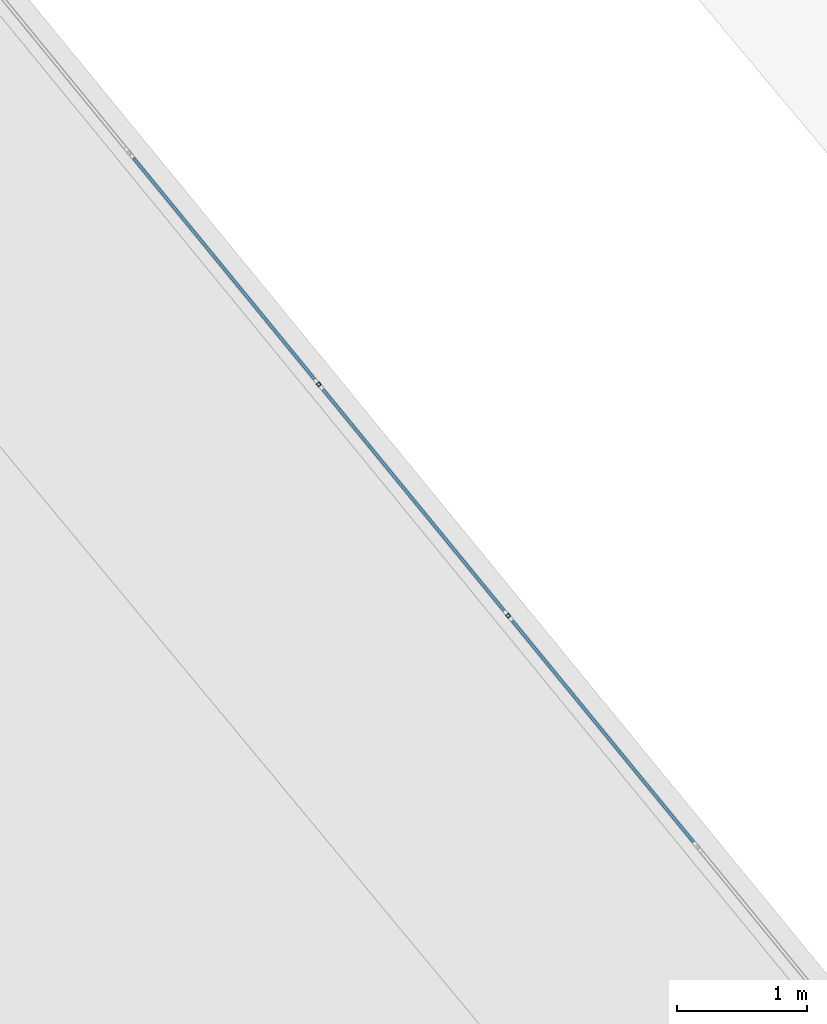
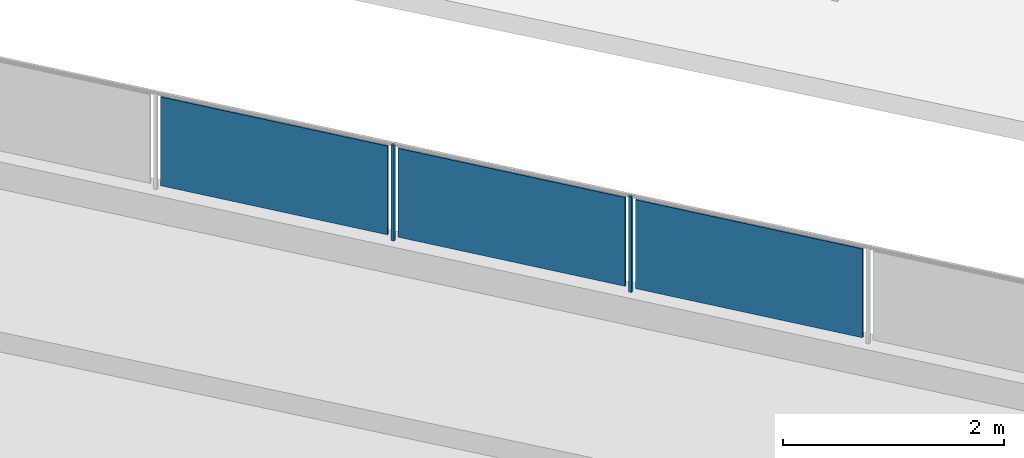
# One storey, part 17 of 75: 5 building element parts, 1 element without a shape of its own.
"""IFC4 building model written with IfcOpenShell, lengths in metres."""

from ifc_helpers import new_model, entity, si_unit, converted_unit, derived_unit, direction, frame, origin_with_axes, place, context, subcontext, project, spatial, polygons, material, type_object, element, aggregate, save


model = new_model("IFC4")

# Units and contexts
model_context = context("Model", 3, precision=1e-05, world=origin_with_axes(), true_north=direction((0.0, 1.0)))
body_context = subcontext(model_context, "Body", "Model", "MODEL_VIEW")
ifc_project = project(units=[si_unit("LENGTHUNIT", "METRE"), si_unit("AREAUNIT", "SQUARE_METRE"), si_unit("VOLUMEUNIT", "CUBIC_METRE"), converted_unit("PLANEANGLEUNIT", "DEGREE", entity("IfcPlaneAngleMeasure", 0.0174532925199), si_unit("PLANEANGLEUNIT", "RADIAN"), dimensions=[0, 0, 0, 0, 0, 0, 0]), converted_unit("TIMEUNIT", "Year", entity("IfcTimeMeasure", 31556926.0), si_unit("TIMEUNIT", "SECOND"), dimensions=[0, 0, 1, 0, 0, 0, 0]), si_unit("MASSUNIT", "GRAM", prefix="KILO"), si_unit("THERMODYNAMICTEMPERATUREUNIT", "DEGREE_CELSIUS"), si_unit("LUMINOUSINTENSITYUNIT", "LUMEN"), si_unit("ENERGYUNIT", "JOULE", prefix="MEGA"), derived_unit("THERMALCONDUCTANCEUNIT", [(si_unit("POWERUNIT", "WATT"), 1), (si_unit("LENGTHUNIT", "METRE"), -1), (si_unit("THERMODYNAMICTEMPERATUREUNIT", "KELVIN"), -1)]), derived_unit("SPECIFICHEATCAPACITYUNIT", [(si_unit("ENERGYUNIT", "JOULE"), 1), (si_unit("MASSUNIT", "GRAM", prefix="KILO"), -1), (si_unit("THERMODYNAMICTEMPERATUREUNIT", "KELVIN"), -1)]), derived_unit("MASSDENSITYUNIT", [(si_unit("MASSUNIT", "GRAM", prefix="KILO"), 1), (si_unit("VOLUMEUNIT", "CUBIC_METRE"), -1)])], contexts=[model_context])

# Site, building, storey
site_placement = place(None, frame((-0.00153261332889, -0.00661245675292, 0.0), z_axis=(0.0, 0.0, 1.0), x_axis=(1.0, 0.0, 0.0)))
site = spatial("IfcSite", under=ifc_project, at=site_placement, Name="Gelände", CompositionType="ELEMENT")
building_placement = place(site_placement, origin_with_axes())
building = spatial("IfcBuilding", under=site, at=building_placement, Name="Gebäude", CompositionType="ELEMENT")
storey_placement = place(building_placement, frame((0.0, 0.0, -0.22), z_axis=(0.0, 0.0, 1.0), x_axis=(1.0, 0.0, 0.0)))
storey = spatial("IfcBuildingStorey", under=building, at=storey_placement, Name="EG", CompositionType="ELEMENT", Elevation=-0.22)

# Railing, building element parts
railing_type = type_object("IfcRailingType", Name="Geländerart", PredefinedType="NOTDEFINED")
railing_placement = place(storey_placement, frame((-12.1608341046, 23.557810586, 0.523948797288), z_axis=(0.0, 0.0, 1.0), x_axis=(1.0, 0.0, 0.0)))
railing = element("IfcRailing", 1, at=railing_placement, inside=storey, type_object=railing_type, Name="Geländer - 001", PredefinedType="NOTDEFINED")
ifc_material_1 = material(Name="Zaun")
building_element_part_1_placement = place(railing_placement, origin_with_axes())
building_element_part_1 = element("IfcBuildingElementPart", 2, at=building_element_part_1_placement, material=ifc_material_1, Name="Zaun", PredefinedType="NOTDEFINED", context=body_context, shape_type="Tessellation", body=[
    polygons([(6.33475571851, -16.2595765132, 0.05), (4.94383989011, -14.5606796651, 0.05), (4.94383989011, -14.5606796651, 1.03), (6.33475571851, -16.2595765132, 1.03), (4.92836480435, -14.5733493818, 0.05), (6.31928063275, -16.2722462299, 0.05), (4.92836480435, -14.5733493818, 1.03), (6.31928063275, -16.2722462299, 1.03)], [[[1, 2, 3, 4]], [[5, 2, 1, 6]], [[7, 3, 2, 5]], [[4, 3, 7, 8]], [[1, 4, 8, 6]], [[7, 5, 6, 8]]], closed=True),
])
ifc_material_2 = material(Name="Aluminium")
building_element_part_2_placement = place(railing_placement, origin_with_axes())
building_element_part_2 = element("IfcBuildingElementPart", 3, at=building_element_part_2_placement, material=ifc_material_2, Name="Aluminium", PredefinedType="NOTDEFINED", context=body_context, shape_type="Tessellation", body=[
    polygons([(6.35658844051, -16.3257076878, 0.0), (6.37980106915, -16.3067031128, 0.0), (6.37980106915, -16.3067031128, 1.06), (6.35658844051, -16.3257076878, 1.06), (6.3375838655, -16.3024950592, 0.0), (6.36079649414, -16.2834904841, 0.0), (6.35728978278, -16.3186714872, 0.0), (6.37276486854, -16.3060017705, 0.0), (6.36009515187, -16.2905266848, 0.0), (6.3446200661, -16.3031964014, 0.0), (6.36079649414, -16.2834904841, 1.06), (6.3375838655, -16.3024950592, 1.06), (6.35728978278, -16.3186714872, 1.06), (6.3446200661, -16.3031964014, 1.06), (6.36009515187, -16.2905266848, 1.06), (6.37276486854, -16.3060017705, 1.06)], [[[1, 2, 3, 4]], [[1, 5, 6, 2], [7, 8, 9, 10]], [[2, 6, 11, 3]], [[4, 3, 11, 12], [13, 14, 15, 16]], [[5, 1, 4, 12]], [[6, 5, 12, 11]], [[8, 7, 13, 16]], [[9, 8, 16, 15]], [[10, 9, 15, 14]], [[7, 10, 14, 13]]], closed=True),
])
building_element_part_3_placement = place(railing_placement, origin_with_axes())
building_element_part_3 = element("IfcBuildingElementPart", 4, at=building_element_part_3_placement, material=ifc_material_1, Name="Zaun", PredefinedType="NOTDEFINED", context=body_context, shape_type="Tessellation", body=[
    polygons([(7.7890201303, -18.0358487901, 0.05), (6.3981043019, -16.336951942, 0.05), (6.3981043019, -16.336951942, 1.03), (7.7890201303, -18.0358487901, 1.03), (6.38262921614, -16.3496216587, 0.05), (7.77354504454, -18.0485185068, 0.05), (6.38262921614, -16.3496216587, 1.03), (7.77354504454, -18.0485185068, 1.03)], [[[1, 2, 3, 4]], [[5, 2, 1, 6]], [[7, 3, 2, 5]], [[4, 3, 7, 8]], [[1, 4, 8, 6]], [[7, 5, 6, 8]]], closed=True),
])
building_element_part_4_placement = place(railing_placement, origin_with_axes())
building_element_part_4 = element("IfcBuildingElementPart", 5, at=building_element_part_4_placement, material=ifc_material_2, Name="Aluminium", PredefinedType="NOTDEFINED", context=body_context, shape_type="Tessellation", body=[
    polygons([(7.8108528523, -18.1019799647, 0.0), (7.83406548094, -18.0829753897, 0.0), (7.83406548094, -18.0829753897, 1.06), (7.8108528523, -18.1019799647, 1.06), (7.79184827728, -18.0787673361, 0.0), (7.81506090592, -18.0597627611, 0.0), (7.81155419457, -18.0949437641, 0.0), (7.82702928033, -18.0822740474, 0.0), (7.81435956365, -18.0667989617, 0.0), (7.79888447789, -18.0794686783, 0.0), (7.81506090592, -18.0597627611, 1.06), (7.79184827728, -18.0787673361, 1.06), (7.81155419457, -18.0949437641, 1.06), (7.79888447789, -18.0794686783, 1.06), (7.81435956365, -18.0667989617, 1.06), (7.82702928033, -18.0822740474, 1.06)], [[[1, 2, 3, 4]], [[1, 5, 6, 2], [7, 8, 9, 10]], [[2, 6, 11, 3]], [[4, 3, 11, 12], [13, 14, 15, 16]], [[5, 1, 4, 12]], [[6, 5, 12, 11]], [[8, 7, 13, 16]], [[9, 8, 16, 15]], [[10, 9, 15, 14]], [[7, 10, 14, 13]]], closed=True),
])
building_element_part_5_placement = place(railing_placement, origin_with_axes())
building_element_part_5 = element("IfcBuildingElementPart", 6, at=building_element_part_5_placement, material=ifc_material_1, Name="Zaun", PredefinedType="NOTDEFINED", context=body_context, shape_type="Tessellation", body=[
    polygons([(9.24328454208, -19.8121210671, 0.05), (7.85236871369, -18.113224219, 0.05), (7.85236871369, -18.113224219, 1.03), (9.24328454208, -19.8121210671, 1.03), (7.83689362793, -18.1258939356, 0.05), (9.22780945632, -19.8247907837, 0.05), (7.83689362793, -18.1258939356, 1.03), (9.22780945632, -19.8247907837, 1.03)], [[[1, 2, 3, 4]], [[5, 2, 1, 6]], [[7, 3, 2, 5]], [[4, 3, 7, 8]], [[1, 4, 8, 6]], [[7, 5, 6, 8]]], closed=True),
])
aggregate(railing, [building_element_part_1, building_element_part_2, building_element_part_3, building_element_part_4, building_element_part_5])

save(model, "model.ifc")
